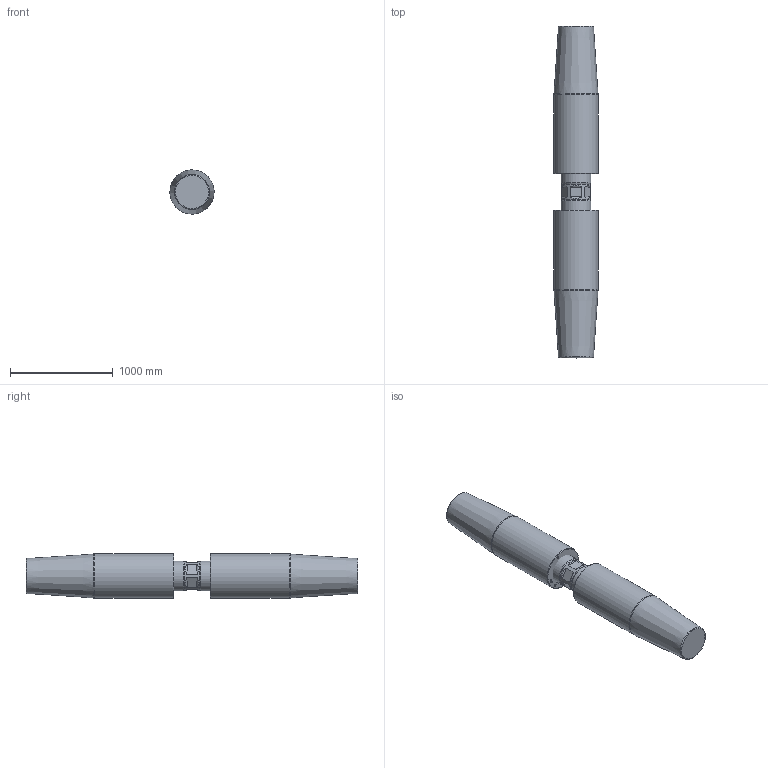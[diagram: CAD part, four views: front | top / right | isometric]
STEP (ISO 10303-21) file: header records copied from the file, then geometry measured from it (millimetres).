
FILE_DESCRIPTION(/* description */ (''),/* implementation_level */ '2;1');
FILE_NAME(/* name */ 'D:\Clienti\Redaelli (inventor)\CYA\STEP\Arrangement\CYA148 52 061 2.stp',/* time_stamp */ '2021-05-09T10:51:00+02:00',/* author */ ('fabri'),/* organization */ (''),/* preprocessor_version */ 'ST-DEVELOPER v16.13',/* originating_system */ 'Autodesk Inventor 2018',/* authorisation */ '');
FILE_SCHEMA (('AUTOMOTIVE_DESIGN { 1 0 10303 214 3 1 1 }'));
Length unit declared in the file: millimetre
Products named in the file (4): CYA012-54-062-0; TBF012-12-012-1; TBF012-13-012-0; TBF012-13-012-0_1
Assembly tree (3 placements, depth 2):
  CYA012-54-062-0
    TBF012-12-012-1
    TBF012-13-012-0
    TBF012-13-012-0_1
Bounding box: 429.73 x 3233 x 429.73 mm (x, y, z)
Volume: 471340297.4 mm3; surface area: 5593173.1 mm2
Topology: 3 solids, 3 shells, 505 faces, 1332 edges, 882 vertices
Faces by surface type: plane 246, bspline 216, cylinder 25, cone 14, torus 4
Full cylindrical faces by diameter (mm): 17.294 x2, 23.752 x6, 282.5 x1, 290 x2, 430 x2
Entity records: 16948 total; most frequent: CARTESIAN_POINT 5967, ORIENTED_EDGE 2586, DIRECTION 1483, EDGE_CURVE 1293, VERTEX_POINT 874, LINE 811, VECTOR 811, EDGE_LOOP 585
